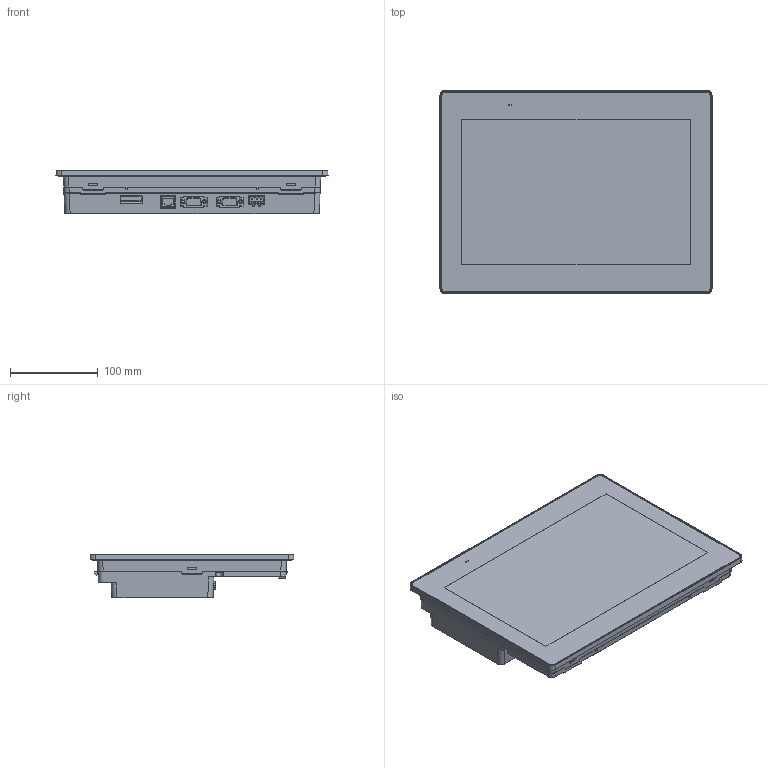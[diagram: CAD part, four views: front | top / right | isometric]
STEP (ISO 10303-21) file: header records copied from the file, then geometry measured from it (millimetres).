
FILE_DESCRIPTION (( 'STEP AP203' ), '1' );
FILE_NAME ('HMIET6600-12inch-ETH-20210113_simpl.STEP', '2021-04-22T17:12:47', ( 'Polynotes' ), ( 'Hewlett-Packard Company' ), 'SwSTEP 2.0', 'SolidWorks 2017', '' );
FILE_SCHEMA (( 'CONFIG_CONTROL_DESIGN' ));
Length unit declared in the file: millimetre
Products named in the file (1): HMIET6600-12inch-ETH-20210113_simpl
Bounding box: 310.5 x 232.5 x 50 mm (x, y, z)
Volume: 2496499.4 mm3; surface area: 210710.2 mm2
Topology: 12 solids, 15 shells, 1062 faces, 2755 edges, 1757 vertices
Faces by surface type: plane 574, cylinder 311, torus 84, bspline 49, cone 38, sphere 6
Entity records: 39908 total; most frequent: CARTESIAN_POINT 15852, ORIENTED_EDGE 5510, DIRECTION 4113, EDGE_CURVE 2755, VERTEX_POINT 1757, LINE 1459, VECTOR 1459, AXIS2_PLACEMENT_3D 1327
